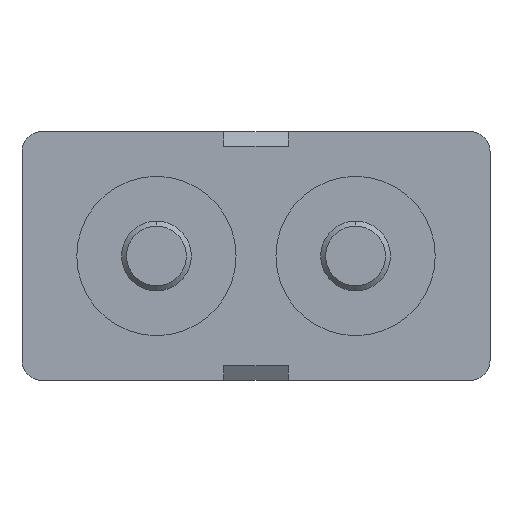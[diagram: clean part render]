
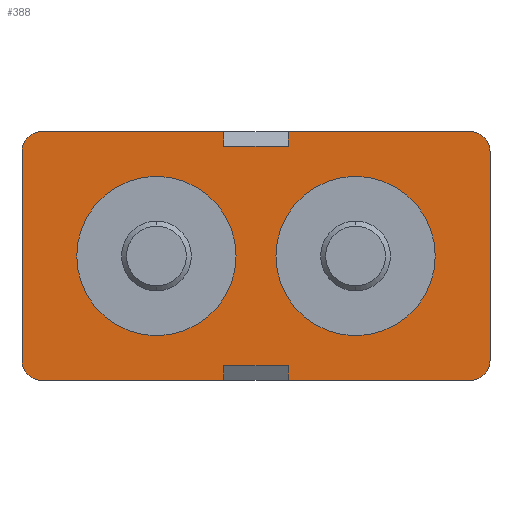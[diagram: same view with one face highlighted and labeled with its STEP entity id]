
A CAD part, front view. The second image highlights one B-rep face of the part: STEP entity #388.
In plain terms, the highlighted planar face has unit normal (0, -1, 0).
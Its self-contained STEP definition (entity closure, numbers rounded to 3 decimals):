
#1=DIRECTION('',(0.,0.,1.));
#2=VECTOR('',#1,0.15);
#3=CARTESIAN_POINT('',(0.325,0.,1.1));
#4=LINE('',#3,#2);
#5=CARTESIAN_POINT('',(2.15,0.,1.05));
#6=DIRECTION('',(0.,1.,0.));
#7=DIRECTION('',(0.,0.,1.));
#8=AXIS2_PLACEMENT_3D('',#5,#6,#7);
#10=CARTESIAN_POINT('',(2.15,0.,-1.05));
#11=DIRECTION('',(0.,1.,0.));
#12=DIRECTION('',(1.,0.,0.));
#13=AXIS2_PLACEMENT_3D('',#10,#11,#12);
#15=DIRECTION('',(-1.,0.,0.));
#16=VECTOR('',#15,0.65);
#17=CARTESIAN_POINT('',(0.325,0.,-1.1));
#18=LINE('',#17,#16);
#19=DIRECTION('',(0.,0.,-1.));
#20=VECTOR('',#19,0.15);
#21=CARTESIAN_POINT('',(-0.325,0.,-1.1));
#22=LINE('',#21,#20);
#23=DIRECTION('',(-1.,0.,0.));
#24=VECTOR('',#23,1.825);
#25=CARTESIAN_POINT('',(-0.325,0.,-1.25));
#26=LINE('',#25,#24);
#27=CARTESIAN_POINT('',(-2.15,0.,-1.05));
#28=DIRECTION('',(0.,1.,0.));
#29=DIRECTION('',(0.,0.,-1.));
#30=AXIS2_PLACEMENT_3D('',#27,#28,#29);
#32=CARTESIAN_POINT('',(-2.15,0.,1.05));
#33=DIRECTION('',(0.,1.,0.));
#34=DIRECTION('',(-1.,0.,0.));
#35=AXIS2_PLACEMENT_3D('',#32,#33,#34);
#37=CARTESIAN_POINT('',(1.,0.,0.));
#38=DIRECTION('',(0.,-1.,0.));
#39=DIRECTION('',(1.,0.,0.));
#40=AXIS2_PLACEMENT_3D('',#37,#38,#39);
#42=CARTESIAN_POINT('',(1.,0.,0.));
#43=DIRECTION('',(0.,-1.,0.));
#44=DIRECTION('',(-1.,0.,0.));
#45=AXIS2_PLACEMENT_3D('',#42,#43,#44);
#47=CARTESIAN_POINT('',(-1.,0.,0.));
#48=DIRECTION('',(0.,-1.,0.));
#49=DIRECTION('',(1.,0.,0.));
#50=AXIS2_PLACEMENT_3D('',#47,#48,#49);
#52=CARTESIAN_POINT('',(-1.,0.,0.));
#53=DIRECTION('',(0.,-1.,0.));
#54=DIRECTION('',(-1.,0.,0.));
#55=AXIS2_PLACEMENT_3D('',#52,#53,#54);
#61=DIRECTION('',(0.,0.,1.));
#62=VECTOR('',#61,0.15);
#63=CARTESIAN_POINT('',(-0.325,0.,1.1));
#64=LINE('',#63,#62);
#73=DIRECTION('',(-1.,0.,0.));
#74=VECTOR('',#73,1.825);
#75=CARTESIAN_POINT('',(-0.325,0.,1.25));
#76=LINE('',#75,#74);
#77=DIRECTION('',(-1.,0.,0.));
#78=VECTOR('',#77,1.825);
#79=CARTESIAN_POINT('',(2.15,0.,1.25));
#80=LINE('',#79,#78);
#93=DIRECTION('',(0.,0.,-1.));
#94=VECTOR('',#93,2.1);
#95=CARTESIAN_POINT('',(-2.35,0.,1.05));
#96=LINE('',#95,#94);
#109=DIRECTION('',(1.,0.,0.));
#110=VECTOR('',#109,1.825);
#111=CARTESIAN_POINT('',(0.325,0.,-1.25));
#112=LINE('',#111,#110);
#177=DIRECTION('',(0.,0.,1.));
#178=VECTOR('',#177,2.1);
#179=CARTESIAN_POINT('',(2.35,0.,-1.05));
#180=LINE('',#179,#178);
#225=DIRECTION('',(0.,0.,-1.));
#226=VECTOR('',#225,0.15);
#227=CARTESIAN_POINT('',(0.325,0.,-1.1));
#228=LINE('',#227,#226);
#253=DIRECTION('',(-1.,0.,0.));
#254=VECTOR('',#253,0.65);
#255=CARTESIAN_POINT('',(0.325,0.,1.1));
#256=LINE('',#255,#254);
#257=CARTESIAN_POINT('',(-0.325,0.,1.1));
#258=CARTESIAN_POINT('',(-0.325,0.,1.25));
#259=VERTEX_POINT('',#257);
#260=VERTEX_POINT('',#258);
#261=CARTESIAN_POINT('',(0.325,0.,1.1));
#262=VERTEX_POINT('',#261);
#263=CARTESIAN_POINT('',(0.325,0.,1.25));
#264=VERTEX_POINT('',#263);
#265=CARTESIAN_POINT('',(2.15,0.,1.25));
#266=VERTEX_POINT('',#265);
#267=CARTESIAN_POINT('',(2.35,0.,1.05));
#268=VERTEX_POINT('',#267);
#269=CARTESIAN_POINT('',(2.35,0.,-1.05));
#270=VERTEX_POINT('',#269);
#271=CARTESIAN_POINT('',(2.15,0.,-1.25));
#272=VERTEX_POINT('',#271);
#273=CARTESIAN_POINT('',(0.325,0.,-1.25));
#274=VERTEX_POINT('',#273);
#275=CARTESIAN_POINT('',(0.325,0.,-1.1));
#276=VERTEX_POINT('',#275);
#277=CARTESIAN_POINT('',(-0.325,0.,-1.1));
#278=VERTEX_POINT('',#277);
#279=CARTESIAN_POINT('',(-0.325,0.,-1.25));
#280=VERTEX_POINT('',#279);
#281=CARTESIAN_POINT('',(-2.15,0.,-1.25));
#282=VERTEX_POINT('',#281);
#283=CARTESIAN_POINT('',(-2.35,0.,-1.05));
#284=VERTEX_POINT('',#283);
#285=CARTESIAN_POINT('',(-2.35,0.,1.05));
#286=VERTEX_POINT('',#285);
#287=CARTESIAN_POINT('',(-2.15,0.,1.25));
#288=VERTEX_POINT('',#287);
#289=CARTESIAN_POINT('',(1.755,0.,0.));
#290=CARTESIAN_POINT('',(0.245,0.,0.));
#291=VERTEX_POINT('',#289);
#292=VERTEX_POINT('',#290);
#293=CARTESIAN_POINT('',(-0.245,0.,0.));
#294=CARTESIAN_POINT('',(-1.755,0.,0.));
#295=VERTEX_POINT('',#293);
#296=VERTEX_POINT('',#294);
#337=CARTESIAN_POINT('',(0.,0.,0.));
#338=DIRECTION('',(0.,1.,0.));
#339=DIRECTION('',(1.,0.,0.));
#340=AXIS2_PLACEMENT_3D('',#337,#338,#339);
#341=PLANE('',#340);
#343=ORIENTED_EDGE('',*,*,#342,.F.);
#345=ORIENTED_EDGE('',*,*,#344,.F.);
#347=ORIENTED_EDGE('',*,*,#346,.T.);
#349=ORIENTED_EDGE('',*,*,#348,.F.);
#351=ORIENTED_EDGE('',*,*,#350,.T.);
#353=ORIENTED_EDGE('',*,*,#352,.F.);
#355=ORIENTED_EDGE('',*,*,#354,.T.);
#357=ORIENTED_EDGE('',*,*,#356,.F.);
#359=ORIENTED_EDGE('',*,*,#358,.F.);
#361=ORIENTED_EDGE('',*,*,#360,.T.);
#363=ORIENTED_EDGE('',*,*,#362,.T.);
#365=ORIENTED_EDGE('',*,*,#364,.T.);
#367=ORIENTED_EDGE('',*,*,#366,.T.);
#369=ORIENTED_EDGE('',*,*,#368,.F.);
#371=ORIENTED_EDGE('',*,*,#370,.T.);
#373=ORIENTED_EDGE('',*,*,#372,.F.);
#374=EDGE_LOOP('',(#343,#345,#347,#349,#351,#353,#355,#357,#359,#361,#363,#365,
#367,#369,#371,#373));
#375=FACE_OUTER_BOUND('',#374,.F.);
#377=ORIENTED_EDGE('',*,*,#376,.T.);
#379=ORIENTED_EDGE('',*,*,#378,.T.);
#380=EDGE_LOOP('',(#377,#379));
#381=FACE_BOUND('',#380,.F.);
#383=ORIENTED_EDGE('',*,*,#382,.T.);
#385=ORIENTED_EDGE('',*,*,#384,.T.);
#386=EDGE_LOOP('',(#383,#385));
#387=FACE_BOUND('',#386,.F.);
#388=ADVANCED_FACE('',(#375,#381,#387),#341,.F.);
#9=CIRCLE('',#8,0.2);
#14=CIRCLE('',#13,0.2);
#31=CIRCLE('',#30,0.2);
#36=CIRCLE('',#35,0.2);
#41=CIRCLE('',#40,0.755);
#46=CIRCLE('',#45,0.755);
#51=CIRCLE('',#50,0.755);
#56=CIRCLE('',#55,0.755);
#342=EDGE_CURVE('',#259,#260,#64,.T.);
#344=EDGE_CURVE('',#262,#259,#256,.T.);
#346=EDGE_CURVE('',#262,#264,#4,.T.);
#348=EDGE_CURVE('',#266,#264,#80,.T.);
#350=EDGE_CURVE('',#266,#268,#9,.T.);
#352=EDGE_CURVE('',#270,#268,#180,.T.);
#354=EDGE_CURVE('',#270,#272,#14,.T.);
#356=EDGE_CURVE('',#274,#272,#112,.T.);
#358=EDGE_CURVE('',#276,#274,#228,.T.);
#360=EDGE_CURVE('',#276,#278,#18,.T.);
#362=EDGE_CURVE('',#278,#280,#22,.T.);
#364=EDGE_CURVE('',#280,#282,#26,.T.);
#366=EDGE_CURVE('',#282,#284,#31,.T.);
#368=EDGE_CURVE('',#286,#284,#96,.T.);
#370=EDGE_CURVE('',#286,#288,#36,.T.);
#372=EDGE_CURVE('',#260,#288,#76,.T.);
#376=EDGE_CURVE('',#291,#292,#41,.T.);
#378=EDGE_CURVE('',#292,#291,#46,.T.);
#382=EDGE_CURVE('',#295,#296,#51,.T.);
#384=EDGE_CURVE('',#296,#295,#56,.T.);
